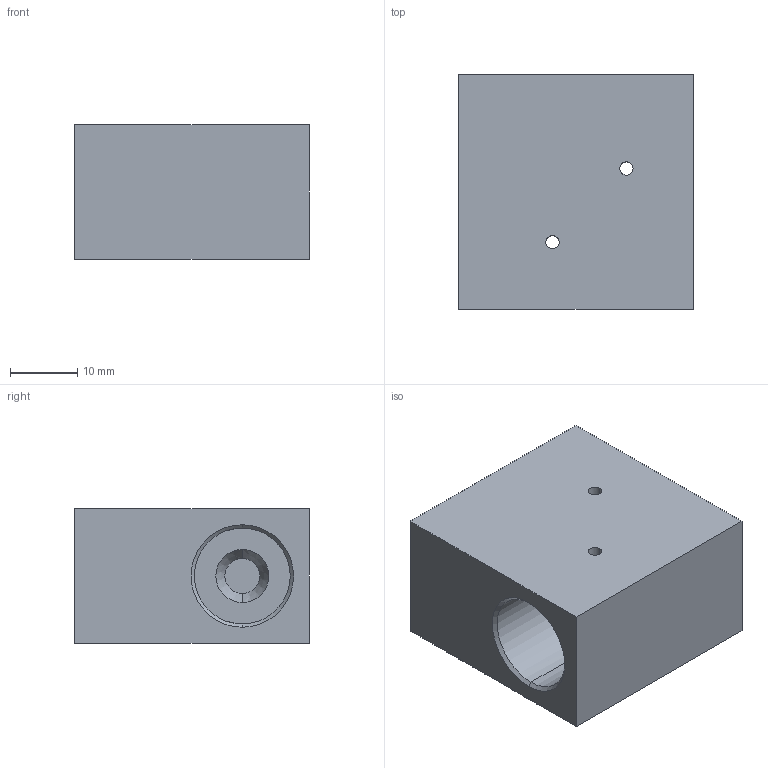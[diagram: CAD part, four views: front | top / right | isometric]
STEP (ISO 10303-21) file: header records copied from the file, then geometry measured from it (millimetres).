
FILE_DESCRIPTION (( 'STEP AP203' ), '1' );
FILE_NAME ('FT20ES06.STEP', '2026-06-26T01:12:59', ( 'USER' ), ( '' ), 'SwSTEP 2.0', 'SolidWorks 2023', '' );
FILE_SCHEMA (( 'CONFIG_CONTROL_DESIGN' ));
Length unit declared in the file: millimetre
Products named in the file (1): FT20ES06
Bounding box: 35 x 35 x 20 mm (x, y, z)
Volume: 19111.5 mm3; surface area: 6833 mm2
Topology: 1 solids, 1 shells, 34 faces, 84 edges, 52 vertices
Faces by surface type: cylinder 16, plane 10, cone 8
Entity records: 1213 total; most frequent: CARTESIAN_POINT 311, DIRECTION 174, ORIENTED_EDGE 168, EDGE_CURVE 84, AXIS2_PLACEMENT_3D 67, VERTEX_POINT 52, EDGE_LOOP 42, VECTOR 40
